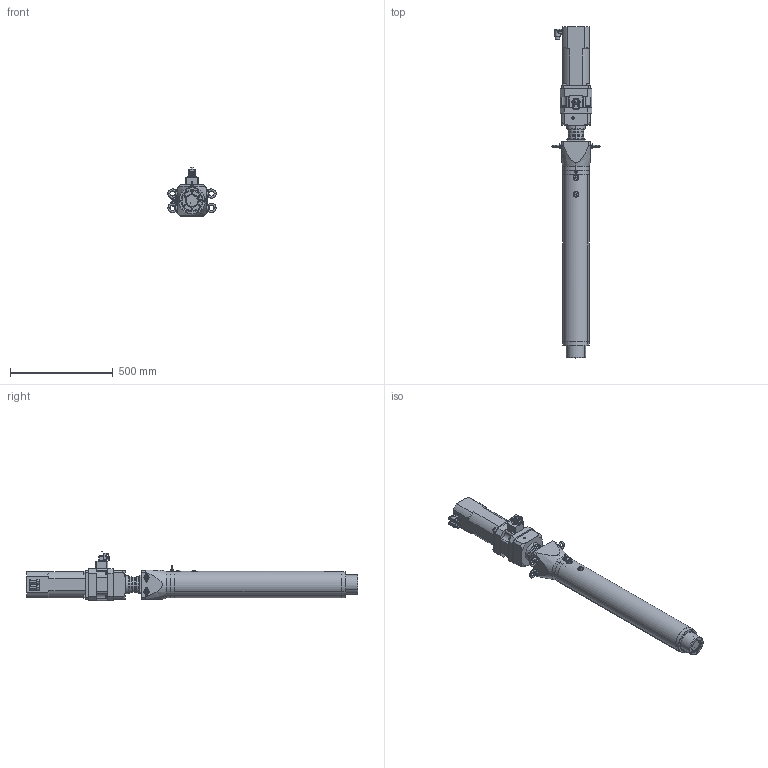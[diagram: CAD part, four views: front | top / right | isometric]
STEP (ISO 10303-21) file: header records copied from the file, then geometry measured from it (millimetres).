
FILE_DESCRIPTION (( 'STEP AP203' ), '1' );
FILE_NAME ('LN5I0300_055_025SG.STEP', '2019-01-31T11:25:28', ( '' ), ( '' ), 'SwSTEP 2.0', 'SolidWorks 2016', '' );
FILE_SCHEMA (( 'CONFIG_CONTROL_DESIGN' ));
Length unit declared in the file: millimetre
Products named in the file (1): LN5I0300_055_025SG
Bounding box: 235 x 1617.5 x 240.04 mm (x, y, z)
Volume: 18458340.6 mm3; surface area: 1779604.2 mm2
Topology: 32 solids, 32 shells, 1344 faces, 3176 edges, 1917 vertices
Faces by surface type: cylinder 523, plane 489, cone 244, torus 68, bspline 18, sphere 2
Entity records: 40099 total; most frequent: CARTESIAN_POINT 8852, DIRECTION 6950, ORIENTED_EDGE 6084, EDGE_CURVE 3042, AXIS2_PLACEMENT_3D 2709, VERTEX_POINT 1917, EDGE_LOOP 1579, LINE 1532
